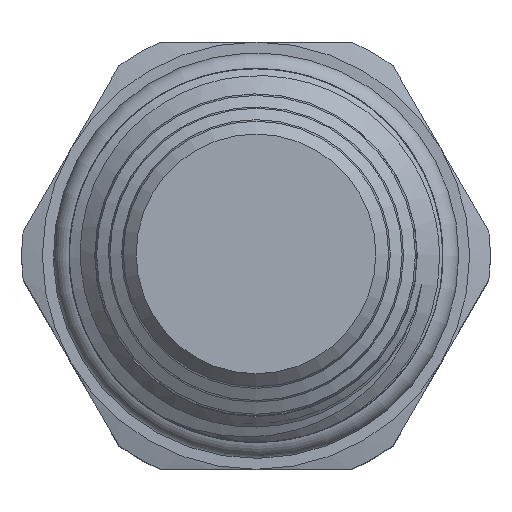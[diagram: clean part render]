
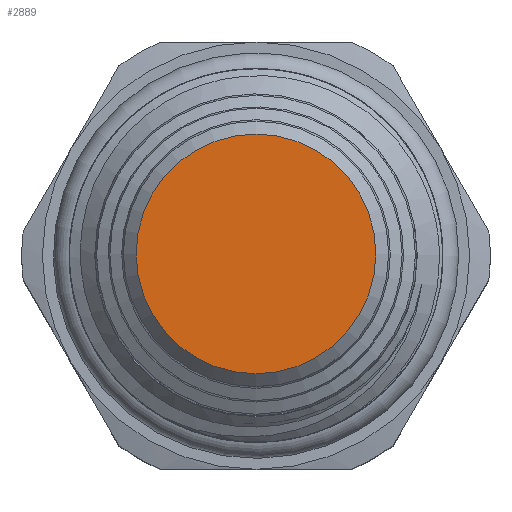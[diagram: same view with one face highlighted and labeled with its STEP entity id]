
A CAD part, top view. The second image highlights one B-rep face of the part: STEP entity #2889.
In plain terms, the highlighted planar face has unit normal (0, 0, 1).
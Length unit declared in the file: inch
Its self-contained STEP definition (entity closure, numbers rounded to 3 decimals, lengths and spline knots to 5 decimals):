
#255=PLANE('',#3168);
#382=FACE_OUTER_BOUND('',#576,.T.);
#576=EDGE_LOOP('',(#2357));
#754=CIRCLE('',#3163,0.2805);
#1356=VERTEX_POINT('',#8099);
#1719=EDGE_CURVE('',#1356,#1356,#754,.T.);
#2357=ORIENTED_EDGE('',*,*,#1719,.F.);
#2889=ADVANCED_FACE('',(#382),#255,.T.);
#3163=AXIS2_PLACEMENT_3D('',#8101,#3745,#3746);
#3168=AXIS2_PLACEMENT_3D('',#8109,#3756,#3757);
#3745=DIRECTION('center_axis',(0.,0.,-1.));
#3746=DIRECTION('ref_axis',(0.,-1.,0.));
#3756=DIRECTION('center_axis',(0.,0.,1.));
#3757=DIRECTION('ref_axis',(1.,0.,0.));
#8099=CARTESIAN_POINT('',(0.,0.2805,3.186));
#8101=CARTESIAN_POINT('Origin',(0.,0.,3.186));
#8109=CARTESIAN_POINT('Origin',(0.,0.,3.186));
